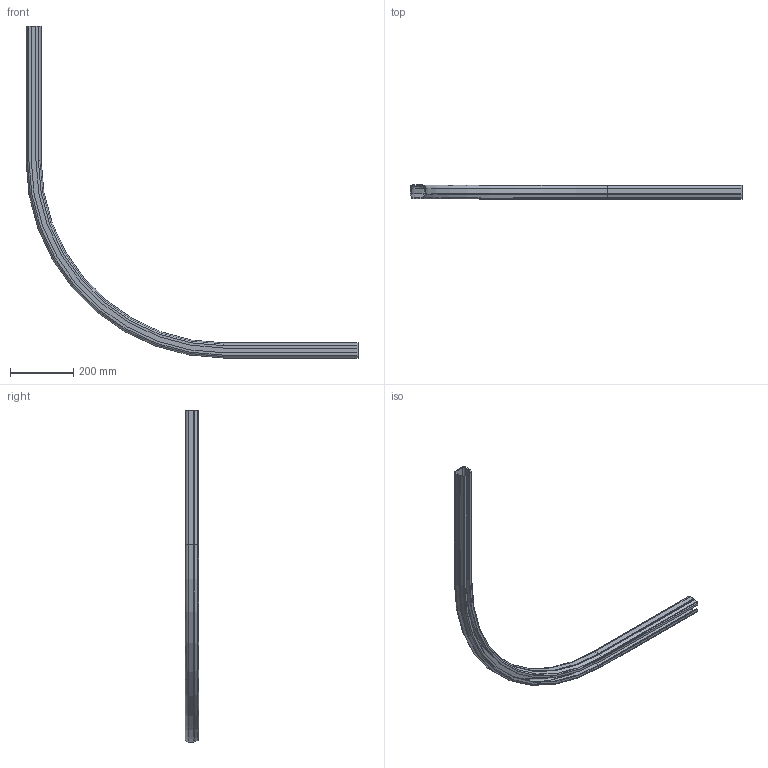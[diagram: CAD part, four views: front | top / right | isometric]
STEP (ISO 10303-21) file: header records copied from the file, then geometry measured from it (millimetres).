
FILE_DESCRIPTION(/* description */ (''),/* implementation_level */ '2;1');
FILE_NAME(/* name */ 'Q:\sge-ma\Produktmanagement-STB\STB\Workspace\stp\010337043.stp',/* time_stamp */ '2015-07-09T13:00:55+02:00',/* author */ ('avschreier'),/* organization */ (''),/* preprocessor_version */ 'ST-DEVELOPER v15.6',/* originating_system */ 'Autodesk Inventor 2015',/* authorisation */ '');
FILE_SCHEMA (('CONFIG_CONTROL_DESIGN'));
Length unit declared in the file: millimetre
Products named in the file (1): 010337043
Bounding box: 1050 x 43 x 1050 mm (x, y, z)
Volume: 791405.7 mm3; surface area: 506995.3 mm2
Topology: 1 solids, 1 shells, 74 faces, 184 edges, 112 vertices
Faces by surface type: cylinder 30, plane 28, torus 12, cone 4
Entity records: 2212 total; most frequent: DIRECTION 410, CARTESIAN_POINT 371, ORIENTED_EDGE 368, EDGE_CURVE 184, AXIS2_PLACEMENT_3D 151, VERTEX_POINT 112, LINE 108, VECTOR 108
